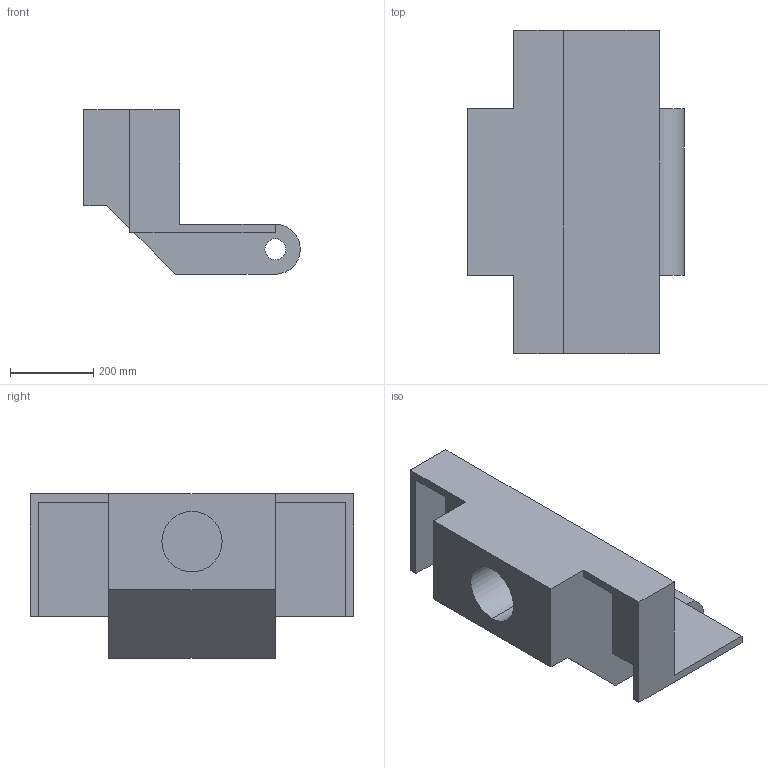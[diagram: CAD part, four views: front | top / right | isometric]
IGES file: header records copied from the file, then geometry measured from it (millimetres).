
Start section: START RECORD GO HERE.
Global section: file name: pince-B.igs; native system: IBM CATIA IGES - CATIA Version 5 Release 10 ; preprocessor: CATIA Version 5 Release 10 ; date: 20030711.094309; units: millimetre
Bounding box: 520 x 777.8 x 395 mm (x, y, z)
Surface area: 1627685 mm2 (no closed solid volume)
Topology: 0 solids, 0 shells, 29 faces, 172 edges, 172 vertices
Faces by surface type: plane 24, revolution 5
